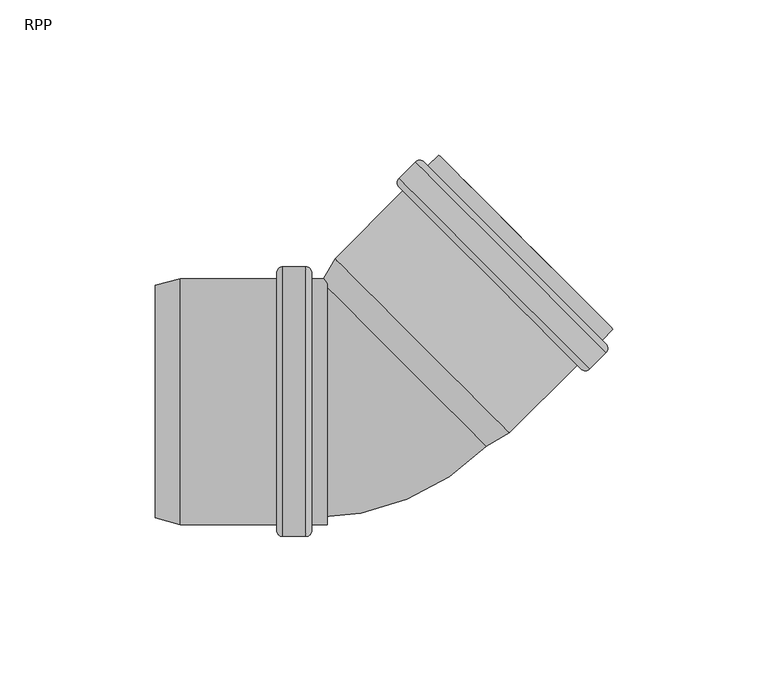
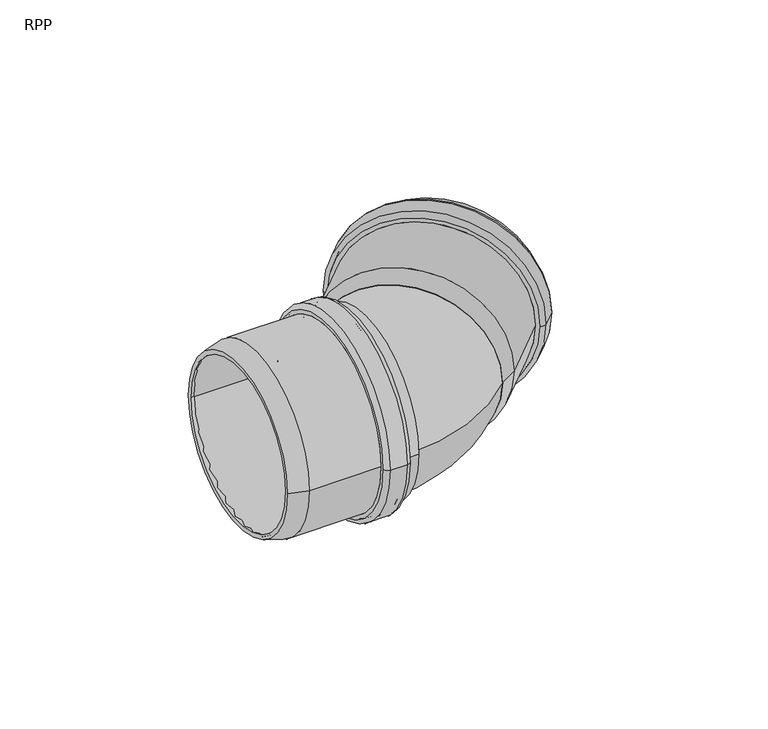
"""IFC4 building model written with IfcOpenShell, lengths in millimetres: pipe fitting geometry, RAUPIANO PLUS Bend : RPP."""

from ifc_helpers import new_model, si_unit, point, frame, origin, place, context, project, spatial, polyline, circle_curve, ellipse_curve, trimmed, source, transform, mapped, element, save
from ifc_brep_helpers import plane_surface, cylinder_surface, revolved_surface, advanced_brep


def rpp_16dab9d7(model_context):
    return source(origin(), model_context, "Body", "AdvancedBrep", [
        advanced_brep(
        [(-27.0898628, -37.8, 0.0), (-27.0898628, 37.8, 0.0), (-59.7292113, 37.8, 0.0), (-59.7292113, -37.8, 0.0), (-26.5898628, -41.6, 0.0), (-26.5898628, 41.6, 0.0), (-27.0898628, 41.1, 0.0), (-27.0898628, -41.1, 0.0), (-19.9898628, -41.6, 0.0), (-19.9898628, 41.6, 0.0), (-19.4898628, -41.1, 0.0), (-19.4898628, 41.1, 0.0), (-12.5898628, -37.8, 0.0), (-12.5898628, 37.8, 0.0), (-19.4898628, 37.8, 0.0), (-19.4898628, -37.8, 0.0), (-17.5898628, -39.7, 0.0), (-17.5898628, 39.7, 0.0), (-12.5898628, 39.7, 0.0), (-12.5898628, -39.7, 0.0), (-19.5898628, -43.5, 0.0), (-19.5898628, 43.5, 0.0), (-17.5898628, 41.5, 0.0), (-17.5898628, -41.5, 0.0), (-26.9898628, -43.5, 0.0), (-26.9898628, 43.5, 0.0), (-28.9898628, -41.5, 0.0), (-28.9898628, 41.5, 0.0), (-59.9793511, -39.7, 0.0), (-59.9793511, 39.7, 0.0), (-28.9898628, 39.7, 0.0), (-28.9898628, -39.7, 0.0), (-68.1898628, -37.5, 0.0), (-68.1898628, 37.5, 0.0), (-68.1898628, 35.5329753, 0.0), (-68.1898628, -35.5329753, 0.0)],
        [
            (0, 1, circle_curve(frame((-27.0898628, 0.0, 0.0), z_axis=(1.0, 0.0, 0.0), x_axis=(0.0, 1.0, 0.0)), 37.8)),
            (1, 2),
            (2, 3, circle_curve(frame((-59.7292113, 0.0, 0.0), z_axis=(-1.0, 0.0, 0.0), x_axis=(0.0, 1.0, 0.0)), 37.8)),
            (3, 0),
            (4, 5, circle_curve(frame((-26.5898628, 0.0, 0.0), z_axis=(1.0, 0.0, 0.0), x_axis=(0.0, 1.0, 0.0)), 41.6)),
            (5, 6, circle_curve(frame((-26.5898628, 41.1, 0.0), z_axis=(0.0, 0.0, 1.0), x_axis=(0.0, -1.0, 0.0)), 0.5)),
            (6, 7, circle_curve(frame((-27.0898628, 0.0, 0.0), z_axis=(-1.0, 0.0, 0.0), x_axis=(0.0, 1.0, 0.0)), 41.1)),
            (7, 4, circle_curve(frame((-26.5898628, -41.1, 0.0), z_axis=(0.0, 0.0, 1.0), x_axis=(0.0, 1.0, 0.0)), 0.5)),
            (8, 9, circle_curve(frame((-19.9898628, 0.0, 0.0), z_axis=(1.0, 0.0, 0.0), x_axis=(0.0, 1.0, 0.0)), 41.6)),
            (9, 5),
            (4, 8),
            (10, 11, circle_curve(frame((-19.4898628, 0.0, 0.0), z_axis=(1.0, 0.0, 0.0), x_axis=(0.0, 1.0, 0.0)), 41.1)),
            (11, 9, circle_curve(frame((-19.9898628, 41.1, 0.0), z_axis=(0.0, 0.0, 1.0), x_axis=(0.0, -1.0, 0.0)), 0.5)),
            (8, 10, circle_curve(frame((-19.9898628, -41.1, 0.0), z_axis=(0.0, 0.0, 1.0), x_axis=(0.0, 1.0, 0.0)), 0.5)),
            (12, 13, circle_curve(frame((-12.5898628, 0.0, 0.0), z_axis=(1.0, 0.0, 0.0), x_axis=(0.0, 1.0, 0.0)), 37.8)),
            (13, 14),
            (14, 15, circle_curve(frame((-19.4898628, 0.0, 0.0), z_axis=(-1.0, 0.0, 0.0), x_axis=(0.0, 1.0, 0.0)), 37.8)),
            (15, 12),
            (16, 17, circle_curve(frame((-17.5898628, 0.0, 0.0), z_axis=(1.0, 0.0, 0.0), x_axis=(0.0, 1.0, 0.0)), 39.7)),
            (17, 18),
            (18, 19, circle_curve(frame((-12.5898628, 0.0, 0.0), z_axis=(-1.0, 0.0, 0.0), x_axis=(0.0, 1.0, 0.0)), 39.7)),
            (19, 16),
            (20, 21, circle_curve(frame((-19.5898628, 0.0, 0.0), z_axis=(1.0, 0.0, 0.0), x_axis=(0.0, 1.0, 0.0)), 43.5)),
            (21, 22, circle_curve(frame((-19.5898628, 41.5, 0.0), z_axis=(0.0, 0.0, -1.0), x_axis=(0.0, -1.0, 0.0)), 2.0)),
            (22, 23, circle_curve(frame((-17.5898628, 0.0, 0.0), z_axis=(-1.0, 0.0, 0.0), x_axis=(0.0, 1.0, 0.0)), 41.5)),
            (23, 20, circle_curve(frame((-19.5898628, -41.5, 0.0), z_axis=(0.0, 0.0, -1.0), x_axis=(0.0, 1.0, 0.0)), 2.0)),
            (24, 25, circle_curve(frame((-26.9898628, 0.0, 0.0), z_axis=(1.0, 0.0, 0.0), x_axis=(0.0, 1.0, 0.0)), 43.5)),
            (25, 21),
            (20, 24),
            (26, 27, circle_curve(frame((-28.9898628, 0.0, 0.0), z_axis=(1.0, 0.0, 0.0), x_axis=(0.0, 1.0, 0.0)), 41.5)),
            (27, 25, circle_curve(frame((-26.9898628, 41.5, 0.0), z_axis=(0.0, 0.0, -1.0), x_axis=(0.0, -1.0, 0.0)), 2.0)),
            (24, 26, circle_curve(frame((-26.9898628, -41.5, 0.0), z_axis=(0.0, 0.0, -1.0), x_axis=(0.0, 1.0, 0.0)), 2.0)),
            (28, 29, circle_curve(frame((-59.9793511, 0.0, 0.0), z_axis=(1.0, 0.0, 0.0), x_axis=(0.0, 1.0, 0.0)), 39.7)),
            (29, 30),
            (30, 31, circle_curve(frame((-28.9898628, 0.0, 0.0), z_axis=(-1.0, 0.0, 0.0), x_axis=(0.0, 1.0, 0.0)), 39.7)),
            (31, 28),
            (32, 33, circle_curve(frame((-68.1898628, 0.0, 0.0), z_axis=(1.0, 0.0, 0.0), x_axis=(0.0, 1.0, 0.0)), 37.5)),
            (33, 29),
            (28, 32),
            (2, 34),
            (34, 35, circle_curve(frame((-68.1898628, 0.0, 0.0), z_axis=(-1.0, 0.0, 0.0), x_axis=(0.0, 1.0, 0.0)), 35.5329753)),
            (35, 3),
            (1, 0, circle_curve(frame((-27.0898628, 0.0, 0.0), z_axis=(1.0, 0.0, 0.0), x_axis=(0.0, -1.0, 0.0)), 37.8)),
            (3, 2, circle_curve(frame((-59.7292113, 0.0, 0.0), z_axis=(-1.0, 0.0, 0.0), x_axis=(0.0, -1.0, 0.0)), 37.8)),
            (6, 7, circle_curve(frame((-27.0898628, 0.0, 0.0), z_axis=(1.0, 0.0, 0.0), x_axis=(0.0, -1.0, 0.0)), 41.1)),
            (5, 4, circle_curve(frame((-26.5898628, 0.0, 0.0), z_axis=(1.0, 0.0, 0.0), x_axis=(0.0, -1.0, 0.0)), 41.6)),
            (9, 8, circle_curve(frame((-19.9898628, 0.0, 0.0), z_axis=(1.0, 0.0, 0.0), x_axis=(0.0, -1.0, 0.0)), 41.6)),
            (11, 10, circle_curve(frame((-19.4898628, 0.0, 0.0), z_axis=(1.0, 0.0, 0.0), x_axis=(0.0, -1.0, 0.0)), 41.1)),
            (14, 15, circle_curve(frame((-19.4898628, 0.0, 0.0), z_axis=(1.0, 0.0, 0.0), x_axis=(0.0, -1.0, 0.0)), 37.8)),
            (13, 12, circle_curve(frame((-12.5898628, 0.0, 0.0), z_axis=(1.0, 0.0, 0.0), x_axis=(0.0, -1.0, 0.0)), 37.8)),
            (18, 19, circle_curve(frame((-12.5898628, 0.0, 0.0), z_axis=(1.0, 0.0, 0.0), x_axis=(0.0, -1.0, 0.0)), 39.7)),
            (17, 16, circle_curve(frame((-17.5898628, 0.0, 0.0), z_axis=(1.0, 0.0, 0.0), x_axis=(0.0, -1.0, 0.0)), 39.7)),
            (22, 23, circle_curve(frame((-17.5898628, 0.0, 0.0), z_axis=(1.0, 0.0, 0.0), x_axis=(0.0, -1.0, 0.0)), 41.5)),
            (21, 20, circle_curve(frame((-19.5898628, 0.0, 0.0), z_axis=(1.0, 0.0, 0.0), x_axis=(0.0, -1.0, 0.0)), 43.5)),
            (25, 24, circle_curve(frame((-26.9898628, 0.0, 0.0), z_axis=(1.0, 0.0, 0.0), x_axis=(0.0, -1.0, 0.0)), 43.5)),
            (27, 26, circle_curve(frame((-28.9898628, 0.0, 0.0), z_axis=(1.0, 0.0, 0.0), x_axis=(0.0, -1.0, 0.0)), 41.5)),
            (30, 31, circle_curve(frame((-28.9898628, 0.0, 0.0), z_axis=(1.0, 0.0, 0.0), x_axis=(0.0, -1.0, 0.0)), 39.7)),
            (29, 28, circle_curve(frame((-59.9793511, 0.0, 0.0), z_axis=(1.0, 0.0, 0.0), x_axis=(0.0, -1.0, 0.0)), 39.7)),
            (33, 32, circle_curve(frame((-68.1898628, 0.0, 0.0), z_axis=(1.0, 0.0, 0.0), x_axis=(0.0, -1.0, 0.0)), 37.5)),
            (34, 35, circle_curve(frame((-68.1898628, 0.0, 0.0), z_axis=(1.0, 0.0, 0.0), x_axis=(0.0, -1.0, 0.0)), 35.5329753)),
        ],
        [
            revolved_surface(polyline([(-59.7292113, 37.8, 0.0), (-27.0898628, 37.8, 0.0)]), (-68.1898628, 0.0, 0.0), (-1.0, 0.0, 0.0)),
            revolved_surface(trimmed(ellipse_curve(frame((-26.5898628, 41.1, 0.0), z_axis=(0.0, 0.0, -1.0), x_axis=(0.0, -1.0, 0.0)), 0.5, 0.5), [point((-27.0898628, 41.1, 0.0))], [point((-26.5898628, 41.6, 0.0))], True, "CARTESIAN"), (-68.1898628, 0.0, 0.0), (-1.0, 0.0, 0.0)),
            revolved_surface(polyline([(-26.5898628, 41.6, 0.0), (-19.989862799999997, 41.6, 0.0)]), (-68.1898628, 0.0, 0.0), (-1.0, 0.0, 0.0)),
            revolved_surface(trimmed(ellipse_curve(frame((-19.9898628, 41.1, 0.0), z_axis=(0.0, 0.0, -1.0), x_axis=(0.0, -1.0, 0.0)), 0.5, 0.5), [point((-19.9898628, 41.6, 0.0))], [point((-19.4898628, 41.1, 0.0))], True, "CARTESIAN"), (-68.1898628, 0.0, 0.0), (-1.0, 0.0, 0.0)),
            revolved_surface(polyline([(-19.489862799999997, 37.8, 0.0), (-12.589862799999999, 37.8, 0.0)]), (-68.1898628, 0.0, 0.0), (-1.0, 0.0, 0.0)),
            cylinder_surface(frame((-68.1898628, 0.0, 0.0), z_axis=(-1.0, 0.0, 0.0), x_axis=(0.0, 1.0, 0.0)), 39.7),
            revolved_surface(trimmed(ellipse_curve(frame((-19.5898628, 41.5, 0.0), z_axis=(0.0, 0.0, 1.0), x_axis=(0.0, -1.0, 0.0)), 2.0, 2.0), [point((-17.5898628, 41.5, 0.0))], [point((-19.5898628, 43.5, 0.0))], True, "CARTESIAN"), (-68.1898628, 0.0, 0.0), (-1.0, 0.0, 0.0)),
            cylinder_surface(frame((-68.1898628, 0.0, 0.0), z_axis=(-1.0, 0.0, 0.0), x_axis=(0.0, 1.0, 0.0)), 43.5),
            revolved_surface(trimmed(ellipse_curve(frame((-26.9898628, 41.5, 0.0), z_axis=(0.0, 0.0, 1.0), x_axis=(0.0, -1.0, 0.0)), 2.0, 2.0), [point((-26.9898628, 43.5, 0.0))], [point((-28.9898628, 41.5, 0.0))], True, "CARTESIAN"), (-68.1898628, 0.0, 0.0), (-1.0, 0.0, 0.0)),
            revolved_surface(polyline([(-59.9793511, 39.7, 0.0), (-68.1898628, 37.5, 0.0)]), (-68.1898628, 0.0, 0.0), (-1.0, 0.0, 0.0)),
            revolved_surface(polyline([(-68.1898628, 35.5329753, 0.0), (-59.7292113, 37.8, 0.0)]), (-68.1898628, 0.0, 0.0), (-1.0, 0.0, 0.0)),
            revolved_surface(polyline([(-59.7292113, -37.8, 0.0), (-27.0898628, -37.8, 0.0)]), (-68.1898628, 0.0, 0.0), (-1.0, 0.0, 0.0)),
            plane_surface(frame((-27.0898628, 0.0, 0.0), z_axis=(1.0, 0.0, 0.0), x_axis=(0.0, -1.0, 0.0))),
            revolved_surface(trimmed(ellipse_curve(frame((-26.5898628, -41.1, 0.0), z_axis=(0.0, 0.0, 1.0), x_axis=(0.0, 1.0, 0.0)), 0.5, 0.5), [point((-27.0898628, -41.1, 0.0))], [point((-26.5898628, -41.6, 0.0))], True, "CARTESIAN"), (-68.1898628, 0.0, 0.0), (-1.0, 0.0, 0.0)),
            revolved_surface(polyline([(-26.5898628, -41.6, 0.0), (-19.989862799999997, -41.6, 0.0)]), (-68.1898628, 0.0, 0.0), (-1.0, 0.0, 0.0)),
            revolved_surface(trimmed(ellipse_curve(frame((-19.9898628, -41.1, 0.0), z_axis=(0.0, 0.0, 1.0), x_axis=(0.0, 1.0, 0.0)), 0.5, 0.5), [point((-19.9898628, -41.6, 0.0))], [point((-19.4898628, -41.1, 0.0))], True, "CARTESIAN"), (-68.1898628, 0.0, 0.0), (-1.0, 0.0, 0.0)),
            plane_surface(frame((-19.4898628, 0.0, 0.0), z_axis=(-1.0, 0.0, 0.0), x_axis=(0.0, -1.0, 0.0))),
            revolved_surface(polyline([(-19.489862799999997, -37.8, 0.0), (-12.589862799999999, -37.8, 0.0)]), (-68.1898628, 0.0, 0.0), (-1.0, 0.0, 0.0)),
            plane_surface(frame((-12.5898628, 0.0, 0.0), z_axis=(1.0, 0.0, 0.0), x_axis=(0.0, -1.0, 0.0))),
            cylinder_surface(frame((-68.1898628, 0.0, 0.0), z_axis=(-1.0, 0.0, 0.0), x_axis=(0.0, -1.0, 0.0)), 39.7),
            plane_surface(frame((-17.5898628, 0.0, 0.0), z_axis=(1.0, 0.0, 0.0), x_axis=(0.0, -1.0, 0.0))),
            revolved_surface(trimmed(ellipse_curve(frame((-19.5898628, -41.5, 0.0), z_axis=(0.0, 0.0, -1.0), x_axis=(0.0, 1.0, 0.0)), 2.0, 2.0), [point((-17.5898628, -41.5, 0.0))], [point((-19.5898628, -43.5, 0.0))], True, "CARTESIAN"), (-68.1898628, 0.0, 0.0), (-1.0, 0.0, 0.0)),
            cylinder_surface(frame((-68.1898628, 0.0, 0.0), z_axis=(-1.0, 0.0, 0.0), x_axis=(0.0, -1.0, 0.0)), 43.5),
            revolved_surface(trimmed(ellipse_curve(frame((-26.9898628, -41.5, 0.0), z_axis=(0.0, 0.0, -1.0), x_axis=(0.0, 1.0, 0.0)), 2.0, 2.0), [point((-26.9898628, -43.5, 0.0))], [point((-28.9898628, -41.5, 0.0))], True, "CARTESIAN"), (-68.1898628, 0.0, 0.0), (-1.0, 0.0, 0.0)),
            plane_surface(frame((-28.9898628, 0.0, 0.0), z_axis=(-1.0, 0.0, 0.0), x_axis=(0.0, -1.0, 0.0))),
            revolved_surface(polyline([(-59.9793511, -39.7, 0.0), (-68.1898628, -37.5, 0.0)]), (-68.1898628, 0.0, 0.0), (-1.0, 0.0, 0.0)),
            plane_surface(frame((-68.1898628, 0.0, 0.0), z_axis=(-1.0, 0.0, 0.0), x_axis=(0.0, -1.0, 0.0))),
            revolved_surface(polyline([(-68.1898628, -35.5329753, 0.0), (-59.7292113, -37.8, 0.0)]), (-68.1898628, 0.0, 0.0), (-1.0, 0.0, 0.0)),
        ],
        [
            (0, [[1, 2, 3, 4]]),
            (1, [[5, 6, 7, 8]]),
            (2, [[9, 10, -5, 11]]),
            (3, [[12, 13, -9, 14]]),
            (4, [[15, 16, 17, 18]]),
            (5, [[19, 20, 21, 22]]),
            (6, [[23, 24, 25, 26]]),
            (7, [[27, 28, -23, 29]]),
            (8, [[30, 31, -27, 32]]),
            (5, [[33, 34, 35, 36]]),
            (9, [[37, 38, -33, 39]]),
            (10, [[-3, 40, 41, 42]]),
            (11, [[43, -4, 44, -2]]),
            (12, [[45, -7], [-43, -1]]),
            (13, [[46, -8, -45, -6]]),
            (14, [[47, -11, -46, -10]]),
            (15, [[48, -14, -47, -13]]),
            (16, [[-48, -12], [49, -17]]),
            (17, [[50, -18, -49, -16]]),
            (18, [[51, -21], [-50, -15]]),
            (19, [[52, -22, -51, -20]]),
            (20, [[53, -25], [-52, -19]]),
            (21, [[54, -26, -53, -24]]),
            (22, [[55, -29, -54, -28]]),
            (23, [[56, -32, -55, -31]]),
            (24, [[-56, -30], [57, -35]]),
            (19, [[58, -36, -57, -34]]),
            (25, [[59, -39, -58, -38]]),
            (26, [[-59, -37], [60, -41]]),
            (27, [[-44, -42, -60, -40]]),
        ],
    ),
        advanced_brep(
        [(37.2806763, -12.9705392, 0.0), (-12.9705392, 37.2806763, 0.0), (-8.5909837, 44.866289, 0.0), (44.866289, -8.5909837, 0.0), (46.0329163, -10.1113621, 0.0), (-10.1113621, 46.0329163, 0.0), (-14.3614357, 38.6715729, 0.0), (38.6715729, -14.3614357, 0.0), (67.9457936, 11.8015152, 0.0), (11.8015152, 67.9457936, 0.0), (77.2796031, 15.7613132, 0.0), (15.7613132, 77.2796031, 0.0), (10.528723, 72.0470129, 0.0), (72.0470129, 10.528723, 0.0), (79.5423448, 23.3980664, 0.0), (23.3980664, 79.5423448, 0.0), (19.8625325, 76.0068109, 0.0), (76.0068109, 19.8625325, 0.0), (73.3198052, 19.8625325, 0.0), (19.8625325, 73.3198052, 0.0), (24.7415693, 78.1988419, 0.0), (78.1988419, 24.7415693, 0.0), (70.9863528, 12.1550686, 0.0), (12.1550686, 70.9863528, 0.0), (16.8219733, 75.6532575, 0.0), (75.6532575, 16.8219733, 0.0), (14.488521, 67.9457936, 0.0), (67.9457936, 14.488521, 0.0), (10.528723, 69.2185858, 0.0), (69.2185858, 10.528723, 0.0), (77.2796031, 18.5897403, 0.0), (18.5897403, 77.2796031, 0.0), (17.5290801, 75.6532575, 0.0), (75.6532575, 17.5290801, 0.0), (70.279246, 12.1550686, 0.0), (12.1550686, 70.279246, 0.0)],
        [
            (0, 1, circle_curve(frame((12.1550686, 12.1550686, 0.0), z_axis=(-0.7071067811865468, -0.7071067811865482, 0.0), x_axis=(-0.7071067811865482, 0.7071067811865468, 0.0)), 35.5329753)),
            (1, 2),
            (2, 3, circle_curve(frame((18.1376526, 18.1376526, 0.0), z_axis=(0.7071067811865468, 0.7071067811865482, 0.0), x_axis=(-0.7071067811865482, 0.7071067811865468, 0.0)), 37.8)),
            (3, 0),
            (4, 5, circle_curve(frame((17.9607771, 17.9607771, 0.0), z_axis=(-0.7071067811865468, -0.7071067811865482, 0.0), x_axis=(-0.7071067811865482, 0.7071067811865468, 0.0)), 39.7)),
            (5, 6),
            (6, 7, circle_curve(frame((12.1550686, 12.1550686, 0.0), z_axis=(0.7071067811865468, 0.7071067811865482, 0.0), x_axis=(-0.7071067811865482, 0.7071067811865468, 0.0)), 37.5)),
            (7, 4),
            (8, 9, circle_curve(frame((39.8736544, 39.8736544, 0.0), z_axis=(-0.7071067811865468, -0.7071067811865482, 0.0), x_axis=(-0.7071067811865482, 0.7071067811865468, 0.0)), 39.7)),
            (9, 5),
            (4, 8),
            (10, 11, circle_curve(frame((46.5204581, 46.5204581, 0.0), z_axis=(-0.7071067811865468, -0.7071067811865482, 0.0), x_axis=(-0.7071067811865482, 0.7071067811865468, 0.0)), 43.5)),
            (11, 12),
            (12, 13, circle_curve(frame((41.287868, 41.287868, 0.0), z_axis=(0.7071067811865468, 0.7071067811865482, 0.0), x_axis=(-0.7071067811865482, 0.7071067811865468, 0.0)), 43.5)),
            (13, 10),
            (14, 15, circle_curve(frame((51.4702056, 51.4702056, 0.0), z_axis=(-0.7071067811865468, -0.7071067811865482, 0.0), x_axis=(-0.7071067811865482, 0.7071067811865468, 0.0)), 39.7)),
            (15, 16),
            (16, 17, circle_curve(frame((47.9346717, 47.9346717, 0.0), z_axis=(0.7071067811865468, 0.7071067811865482, 0.0), x_axis=(-0.7071067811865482, 0.7071067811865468, 0.0)), 39.7)),
            (17, 14),
            (18, 19, circle_curve(frame((46.5911688, 46.5911688, 0.0), z_axis=(-0.7071067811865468, -0.7071067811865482, 0.0), x_axis=(-0.7071067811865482, 0.7071067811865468, 0.0)), 37.8)),
            (19, 20),
            (20, 21, circle_curve(frame((51.4702056, 51.4702056, 0.0), z_axis=(0.7071067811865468, 0.7071067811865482, 0.0), x_axis=(-0.7071067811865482, 0.7071067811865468, 0.0)), 37.8)),
            (21, 18),
            (22, 23, circle_curve(frame((41.5707107, 41.5707107, 0.0), z_axis=(-0.7071067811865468, -0.7071067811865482, 0.0), x_axis=(-0.7071067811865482, 0.7071067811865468, 0.0)), 41.6)),
            (23, 24),
            (24, 25, circle_curve(frame((46.2376154, 46.2376154, 0.0), z_axis=(0.7071067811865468, 0.7071067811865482, 0.0), x_axis=(-0.7071067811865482, 0.7071067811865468, 0.0)), 41.6)),
            (25, 22),
            (2, 26),
            (26, 27, circle_curve(frame((41.2171573, 41.2171573, 0.0), z_axis=(0.7071067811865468, 0.7071067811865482, 0.0), x_axis=(-0.7071067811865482, 0.7071067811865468, 0.0)), 37.8)),
            (27, 3),
            (1, 0, circle_curve(frame((12.1550686, 12.1550686, 0.0), z_axis=(-0.7071067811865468, -0.7071067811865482, 0.0), x_axis=(0.7071067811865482, -0.7071067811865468, 0.0)), 35.5329753)),
            (3, 2, circle_curve(frame((18.1376526, 18.1376526, 0.0), z_axis=(0.7071067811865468, 0.7071067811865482, 0.0), x_axis=(0.7071067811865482, -0.7071067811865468, 0.0)), 37.8)),
            (6, 7, circle_curve(frame((12.1550686, 12.1550686, 0.0), z_axis=(-0.7071067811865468, -0.7071067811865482, 0.0), x_axis=(0.7071067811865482, -0.7071067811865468, 0.0)), 37.5)),
            (5, 4, circle_curve(frame((17.9607771, 17.9607771, 0.0), z_axis=(-0.7071067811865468, -0.7071067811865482, 0.0), x_axis=(0.7071067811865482, -0.7071067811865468, 0.0)), 39.7)),
            (9, 8, circle_curve(frame((39.8736544, 39.8736544, 0.0), z_axis=(-0.7071067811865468, -0.7071067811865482, 0.0), x_axis=(0.7071067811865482, -0.7071067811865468, 0.0)), 39.7)),
            (28, 29, circle_curve(frame((39.8736544, 39.8736544, 0.0), z_axis=(-0.7071067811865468, -0.7071067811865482, 0.0), x_axis=(0.7071067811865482, -0.7071067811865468, 0.0)), 41.5)),
            (29, 28, circle_curve(frame((39.8736544, 39.8736544, 0.0), z_axis=(-0.7071067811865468, -0.7071067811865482, 0.0), x_axis=(-0.7071067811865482, 0.7071067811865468, 0.0)), 41.5)),
            (11, 10, circle_curve(frame((46.5204581, 46.5204581, 0.0), z_axis=(-0.7071067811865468, -0.7071067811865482, 0.0), x_axis=(0.7071067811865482, -0.7071067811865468, 0.0)), 43.5)),
            (13, 12, circle_curve(frame((41.287868, 41.287868, 0.0), z_axis=(0.7071067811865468, 0.7071067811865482, 0.0), x_axis=(0.7071067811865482, -0.7071067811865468, 0.0)), 43.5)),
            (30, 31, circle_curve(frame((47.9346717, 47.9346717, 0.0), z_axis=(0.7071067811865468, 0.7071067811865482, 0.0), x_axis=(0.7071067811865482, -0.7071067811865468, 0.0)), 41.5)),
            (31, 30, circle_curve(frame((47.9346717, 47.9346717, 0.0), z_axis=(0.7071067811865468, 0.7071067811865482, 0.0), x_axis=(-0.7071067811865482, 0.7071067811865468, 0.0)), 41.5)),
            (16, 17, circle_curve(frame((47.9346717, 47.9346717, 0.0), z_axis=(-0.7071067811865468, -0.7071067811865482, 0.0), x_axis=(0.7071067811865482, -0.7071067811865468, 0.0)), 39.7)),
            (15, 14, circle_curve(frame((51.4702056, 51.4702056, 0.0), z_axis=(-0.7071067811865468, -0.7071067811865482, 0.0), x_axis=(0.7071067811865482, -0.7071067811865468, 0.0)), 39.7)),
            (20, 21, circle_curve(frame((51.4702056, 51.4702056, 0.0), z_axis=(-0.7071067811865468, -0.7071067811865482, 0.0), x_axis=(0.7071067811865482, -0.7071067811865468, 0.0)), 37.8)),
            (19, 18, circle_curve(frame((46.5911688, 46.5911688, 0.0), z_axis=(-0.7071067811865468, -0.7071067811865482, 0.0), x_axis=(0.7071067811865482, -0.7071067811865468, 0.0)), 37.8)),
            (32, 33, circle_curve(frame((46.5911688, 46.5911688, 0.0), z_axis=(-0.7071067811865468, -0.7071067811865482, 0.0), x_axis=(0.7071067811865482, -0.7071067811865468, 0.0)), 41.1)),
            (33, 32, circle_curve(frame((46.5911688, 46.5911688, 0.0), z_axis=(-0.7071067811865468, -0.7071067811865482, 0.0), x_axis=(-0.7071067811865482, 0.7071067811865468, 0.0)), 41.1)),
            (23, 22, circle_curve(frame((41.5707107, 41.5707107, 0.0), z_axis=(-0.7071067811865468, -0.7071067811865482, 0.0), x_axis=(0.7071067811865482, -0.7071067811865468, 0.0)), 41.6)),
            (25, 24, circle_curve(frame((46.2376154, 46.2376154, 0.0), z_axis=(0.7071067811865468, 0.7071067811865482, 0.0), x_axis=(0.7071067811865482, -0.7071067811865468, 0.0)), 41.6)),
            (34, 35, circle_curve(frame((41.2171573, 41.2171573, 0.0), z_axis=(0.7071067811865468, 0.7071067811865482, 0.0), x_axis=(0.7071067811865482, -0.7071067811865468, 0.0)), 41.1)),
            (35, 34, circle_curve(frame((41.2171573, 41.2171573, 0.0), z_axis=(0.7071067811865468, 0.7071067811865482, 0.0), x_axis=(-0.7071067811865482, 0.7071067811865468, 0.0)), 41.1)),
            (26, 27, circle_curve(frame((41.2171573, 41.2171573, 0.0), z_axis=(-0.7071067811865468, -0.7071067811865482, 0.0), x_axis=(0.7071067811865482, -0.7071067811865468, 0.0)), 37.8)),
            (12, 28, circle_curve(frame((11.9429365, 70.6327994, 0.0), z_axis=(0.0, 0.0, 1.0), x_axis=(0.7071067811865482, -0.7071067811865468, 0.0)), 2.0)),
            (29, 13, circle_curve(frame((70.6327994, 11.9429365, 0.0), z_axis=(0.0, 0.0, 1.0), x_axis=(-0.7071067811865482, 0.7071067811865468, 0.0)), 2.0)),
            (31, 11, circle_curve(frame((17.1755267, 75.8653896, 0.0), z_axis=(0.0, 0.0, 1.0), x_axis=(0.7071067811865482, -0.7071067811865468, 0.0)), 2.0)),
            (10, 30, circle_curve(frame((75.8653896, 17.1755267, 0.0), z_axis=(0.0, 0.0, 1.0), x_axis=(-0.7071067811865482, 0.7071067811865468, 0.0)), 2.0)),
            (24, 32, circle_curve(frame((17.1755267, 75.2997041, 0.0), z_axis=(0.0, 0.0, -1.0), x_axis=(0.7071067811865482, -0.7071067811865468, 0.0)), 0.5)),
            (33, 25, circle_curve(frame((75.2997041, 17.1755267, 0.0), z_axis=(0.0, 0.0, -1.0), x_axis=(-0.7071067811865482, 0.7071067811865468, 0.0)), 0.5)),
            (35, 23, circle_curve(frame((12.508622, 70.6327994, 0.0), z_axis=(0.0, 0.0, -1.0), x_axis=(0.7071067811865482, -0.7071067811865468, 0.0)), 0.5)),
            (22, 34, circle_curve(frame((70.6327994, 12.508622, 0.0), z_axis=(0.0, 0.0, -1.0), x_axis=(-0.7071067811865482, 0.7071067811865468, 0.0)), 0.5)),
        ],
        [
            revolved_surface(polyline([(-8.5909837, 44.866289, 0.0), (-12.9705392, 37.2806763, 0.0)]), (12.1550686, 12.1550686, 0.0), (0.7071067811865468, 0.7071067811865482, 0.0)),
            revolved_surface(polyline([(-14.3614357, 38.6715729, 0.0), (-10.1113621, 46.0329163, 0.0)]), (12.1550686, 12.1550686, 0.0), (0.7071067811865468, 0.7071067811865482, 0.0)),
            cylinder_surface(frame((12.1550686, 12.1550686, 0.0), z_axis=(0.7071067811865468, 0.7071067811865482, 0.0), x_axis=(-0.7071067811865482, 0.7071067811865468, 0.0)), 39.7),
            cylinder_surface(frame((12.1550686, 12.1550686, 0.0), z_axis=(0.7071067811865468, 0.7071067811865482, 0.0), x_axis=(-0.7071067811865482, 0.7071067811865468, 0.0)), 43.5),
            revolved_surface(polyline([(24.741569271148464, 78.19884192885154, 0.0), (19.86253247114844, 73.3198051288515, 0.0)]), (12.1550686, 12.1550686, 0.0), (0.7071067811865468, 0.7071067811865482, 0.0)),
            revolved_surface(polyline([(16.821973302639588, 75.65325749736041, 0.0), (12.155068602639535, 70.98635279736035, 0.0)]), (12.1550686, 12.1550686, 0.0), (0.7071067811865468, 0.7071067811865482, 0.0)),
            revolved_surface(polyline([(14.488520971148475, 67.94579362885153, 0.0), (-8.59098372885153, 44.866288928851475, 0.0)]), (12.1550686, 12.1550686, 0.0), (0.7071067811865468, 0.7071067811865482, 0.0)),
            revolved_surface(polyline([(44.866289, -8.5909837, 0.0), (37.2806763, -12.9705392, 0.0)]), (12.1550686, 12.1550686, 0.0), (0.7071067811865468, 0.7071067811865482, 0.0)),
            plane_surface(frame((12.1550686, 12.1550686, 0.0), z_axis=(-0.7071067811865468, -0.7071067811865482, 0.0), x_axis=(0.7071067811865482, -0.7071067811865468, 0.0))),
            revolved_surface(polyline([(38.6715729, -14.3614357, 0.0), (46.0329163, -10.1113621, 0.0)]), (12.1550686, 12.1550686, 0.0), (0.7071067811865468, 0.7071067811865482, 0.0)),
            cylinder_surface(frame((12.1550686, 12.1550686, 0.0), z_axis=(0.7071067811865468, 0.7071067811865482, 0.0), x_axis=(0.7071067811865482, -0.7071067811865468, 0.0)), 39.7),
            plane_surface(frame((39.8736544, 39.8736544, 0.0), z_axis=(-0.7071067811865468, -0.7071067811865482, 0.0), x_axis=(0.7071067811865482, -0.7071067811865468, 0.0))),
            cylinder_surface(frame((12.1550686, 12.1550686, 0.0), z_axis=(0.7071067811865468, 0.7071067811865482, 0.0), x_axis=(0.7071067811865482, -0.7071067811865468, 0.0)), 43.5),
            plane_surface(frame((47.9346717, 47.9346717, 0.0), z_axis=(0.7071067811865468, 0.7071067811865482, 0.0), x_axis=(0.7071067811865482, -0.7071067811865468, 0.0))),
            plane_surface(frame((51.4702056, 51.4702056, 0.0), z_axis=(0.7071067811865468, 0.7071067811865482, 0.0), x_axis=(0.7071067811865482, -0.7071067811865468, 0.0))),
            revolved_surface(polyline([(78.19884192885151, 24.741569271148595, 0.0), (73.31980512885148, 19.862532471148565, 0.0)]), (12.1550686, 12.1550686, 0.0), (0.7071067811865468, 0.7071067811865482, 0.0)),
            plane_surface(frame((46.5911688, 46.5911688, 0.0), z_axis=(-0.7071067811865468, -0.7071067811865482, 0.0), x_axis=(0.7071067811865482, -0.7071067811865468, 0.0))),
            revolved_surface(polyline([(75.65325749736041, 16.82197330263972, 0.0), (70.98635279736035, 12.155068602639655, 0.0)]), (12.1550686, 12.1550686, 0.0), (0.7071067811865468, 0.7071067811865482, 0.0)),
            plane_surface(frame((41.2171573, 41.2171573, 0.0), z_axis=(0.7071067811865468, 0.7071067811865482, 0.0), x_axis=(0.7071067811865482, -0.7071067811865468, 0.0))),
            revolved_surface(polyline([(67.94579362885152, 14.488520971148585, 0.0), (44.86628892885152, -8.590983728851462, 0.0)]), (12.1550686, 12.1550686, 0.0), (0.7071067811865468, 0.7071067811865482, 0.0)),
            revolved_surface(trimmed(ellipse_curve(frame((11.9429365, 70.6327994, 0.0), z_axis=(0.0, 0.0, -1.0), x_axis=(0.7071067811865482, -0.7071067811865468, 0.0)), 2.0, 2.0), [point((10.528723, 69.2185858, 0.0))], [point((10.528723, 72.0470129, 0.0))], True, "CARTESIAN"), (12.1550686, 12.1550686, 0.0), (0.7071067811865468, 0.7071067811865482, 0.0)),
            revolved_surface(trimmed(ellipse_curve(frame((17.1755267, 75.8653896, 0.0), z_axis=(0.0, 0.0, -1.0), x_axis=(0.7071067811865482, -0.7071067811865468, 0.0)), 2.0, 2.0), [point((15.7613132, 77.2796031, 0.0))], [point((18.5897403, 77.2796031, 0.0))], True, "CARTESIAN"), (12.1550686, 12.1550686, 0.0), (0.7071067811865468, 0.7071067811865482, 0.0)),
            revolved_surface(trimmed(ellipse_curve(frame((17.1755267, 75.2997041, 0.0), z_axis=(0.0, 0.0, 1.0), x_axis=(0.7071067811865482, -0.7071067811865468, 0.0)), 0.5, 0.5), [point((17.5290801, 75.6532575, 0.0))], [point((16.8219733, 75.6532575, 0.0))], True, "CARTESIAN"), (12.1550686, 12.1550686, 0.0), (0.7071067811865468, 0.7071067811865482, 0.0)),
            revolved_surface(trimmed(ellipse_curve(frame((12.508622, 70.6327994, 0.0), z_axis=(0.0, 0.0, 1.0), x_axis=(0.7071067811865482, -0.7071067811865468, 0.0)), 0.5, 0.5), [point((12.1550686, 70.9863528, 0.0))], [point((12.1550686, 70.279246, 0.0))], True, "CARTESIAN"), (12.1550686, 12.1550686, 0.0), (0.7071067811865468, 0.7071067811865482, 0.0)),
            revolved_surface(trimmed(ellipse_curve(frame((70.6327994, 11.9429365, 0.0), z_axis=(0.0, 0.0, 1.0), x_axis=(-0.7071067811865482, 0.7071067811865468, 0.0)), 2.0, 2.0), [point((69.2185858, 10.528723, 0.0))], [point((72.0470129, 10.528723, 0.0))], True, "CARTESIAN"), (12.1550686, 12.1550686, 0.0), (0.7071067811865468, 0.7071067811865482, 0.0)),
            revolved_surface(trimmed(ellipse_curve(frame((75.8653896, 17.1755267, 0.0), z_axis=(0.0, 0.0, 1.0), x_axis=(-0.7071067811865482, 0.7071067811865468, 0.0)), 2.0, 2.0), [point((77.2796031, 15.7613132, 0.0))], [point((77.2796031, 18.5897403, 0.0))], True, "CARTESIAN"), (12.1550686, 12.1550686, 0.0), (0.7071067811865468, 0.7071067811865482, 0.0)),
            revolved_surface(trimmed(ellipse_curve(frame((75.2997041, 17.1755267, 0.0), z_axis=(0.0, 0.0, -1.0), x_axis=(-0.7071067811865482, 0.7071067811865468, 0.0)), 0.5, 0.5), [point((75.6532575, 17.5290801, 0.0))], [point((75.6532575, 16.8219733, 0.0))], True, "CARTESIAN"), (12.1550686, 12.1550686, 0.0), (0.7071067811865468, 0.7071067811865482, 0.0)),
            revolved_surface(trimmed(ellipse_curve(frame((70.6327994, 12.508622, 0.0), z_axis=(0.0, 0.0, -1.0), x_axis=(-0.7071067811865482, 0.7071067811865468, 0.0)), 0.5, 0.5), [point((70.9863528, 12.1550686, 0.0))], [point((70.279246, 12.1550686, 0.0))], True, "CARTESIAN"), (12.1550686, 12.1550686, 0.0), (0.7071067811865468, 0.7071067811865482, 0.0)),
        ],
        [
            (0, [[1, 2, 3, 4]]),
            (1, [[5, 6, 7, 8]]),
            (2, [[9, 10, -5, 11]]),
            (3, [[12, 13, 14, 15]]),
            (2, [[16, 17, 18, 19]]),
            (4, [[20, 21, 22, 23]]),
            (5, [[24, 25, 26, 27]]),
            (6, [[-3, 28, 29, 30]]),
            (7, [[31, -4, 32, -2]]),
            (8, [[33, -7], [-31, -1]]),
            (9, [[34, -8, -33, -6]]),
            (10, [[35, -11, -34, -10]]),
            (11, [[36, 37], [-35, -9]]),
            (12, [[38, -15, 39, -13]]),
            (13, [[40, 41], [42, -18]]),
            (10, [[43, -19, -42, -17]]),
            (14, [[-43, -16], [44, -22]]),
            (15, [[45, -23, -44, -21]]),
            (16, [[46, 47], [-45, -20]]),
            (17, [[48, -27, 49, -25]]),
            (18, [[50, 51], [52, -29]]),
            (19, [[-32, -30, -52, -28]]),
            (20, [[-14, 53, -37, 54]]),
            (21, [[-41, 55, -12, 56]]),
            (22, [[-26, 57, -47, 58]]),
            (23, [[-51, 59, -24, 60]]),
            (24, [[-39, -54, -36, -53]]),
            (25, [[-40, -56, -38, -55]]),
            (26, [[-49, -58, -46, -57]]),
            (27, [[-50, -60, -48, -59]]),
        ],
    ),
        advanced_brep(
        [(-17.1898628, 35.6, 0.0), (-17.1898628, -35.6, 0.0), (-68.1898628, -35.6, 0.0), (-68.1898628, 35.6, 0.0), (-64.084607, 37.5, 0.0), (-64.084607, -37.5, 0.0), (-17.1898628, -37.5, 0.0), (-17.1898628, 37.5, 0.0), (-68.1898628, 36.4, 0.0), (-68.1898628, -36.4, 0.0)],
        [
            (0, 1, circle_curve(frame((-17.1898628, 0.0, 0.0), z_axis=(1.0, 0.0, 0.0), x_axis=(0.0, -1.0, 0.0)), 35.6)),
            (1, 2),
            (2, 3, circle_curve(frame((-68.1898628, 0.0, 0.0), z_axis=(-1.0, 0.0, 0.0), x_axis=(0.0, -1.0, 0.0)), 35.6)),
            (3, 0),
            (4, 5, circle_curve(frame((-64.084607, 0.0, 0.0), z_axis=(1.0, 0.0, 0.0), x_axis=(0.0, -1.0, 0.0)), 37.5)),
            (5, 6),
            (6, 7, circle_curve(frame((-17.1898628, 0.0, 0.0), z_axis=(-1.0, 0.0, 0.0), x_axis=(0.0, -1.0, 0.0)), 37.5)),
            (7, 4),
            (8, 9, circle_curve(frame((-68.1898628, 0.0, 0.0), z_axis=(1.0, 0.0, 0.0), x_axis=(0.0, -1.0, 0.0)), 36.4)),
            (9, 5),
            (4, 8),
            (1, 0, circle_curve(frame((-17.1898628, 0.0, 0.0), z_axis=(1.0, 0.0, 0.0), x_axis=(0.0, 1.0, 0.0)), 35.6)),
            (3, 2, circle_curve(frame((-68.1898628, 0.0, 0.0), z_axis=(-1.0, 0.0, 0.0), x_axis=(0.0, 1.0, 0.0)), 35.6)),
            (6, 7, circle_curve(frame((-17.1898628, 0.0, 0.0), z_axis=(1.0, 0.0, 0.0), x_axis=(0.0, 1.0, 0.0)), 37.5)),
            (5, 4, circle_curve(frame((-64.084607, 0.0, 0.0), z_axis=(1.0, 0.0, 0.0), x_axis=(0.0, 1.0, 0.0)), 37.5)),
            (9, 8, circle_curve(frame((-68.1898628, 0.0, 0.0), z_axis=(1.0, 0.0, 0.0), x_axis=(0.0, 1.0, 0.0)), 36.4)),
        ],
        [
            revolved_surface(polyline([(-68.1898628, -35.6, 0.0), (-17.1898628, -35.6, 0.0)]), (-17.1898628, 0.0, 0.0), (-1.0, 0.0, 0.0)),
            cylinder_surface(frame((-17.1898628, 0.0, 0.0), z_axis=(-1.0, 0.0, 0.0), x_axis=(0.0, -1.0, 0.0)), 37.5),
            revolved_surface(polyline([(-64.084607, -37.5, 0.0), (-68.1898628, -36.4, 0.0)]), (-17.1898628, 0.0, 0.0), (-1.0, 0.0, 0.0)),
            revolved_surface(polyline([(-68.1898628, 35.6, 0.0), (-17.1898628, 35.6, 0.0)]), (-17.1898628, 0.0, 0.0), (-1.0, 0.0, 0.0)),
            plane_surface(frame((-17.1898628, 0.0, 0.0), z_axis=(1.0, 0.0, 0.0), x_axis=(0.0, 1.0, 0.0))),
            cylinder_surface(frame((-17.1898628, 0.0, 0.0), z_axis=(-1.0, 0.0, 0.0), x_axis=(0.0, 1.0, 0.0)), 37.5),
            revolved_surface(polyline([(-64.084607, 37.5, 0.0), (-68.1898628, 36.4, 0.0)]), (-17.1898628, 0.0, 0.0), (-1.0, 0.0, 0.0)),
            plane_surface(frame((-68.1898628, 0.0, 0.0), z_axis=(-1.0, 0.0, 0.0), x_axis=(0.0, 1.0, 0.0))),
        ],
        [
            (0, [[1, 2, 3, 4]]),
            (1, [[5, 6, 7, 8]]),
            (2, [[9, 10, -5, 11]]),
            (3, [[12, -4, 13, -2]]),
            (4, [[14, -7], [-12, -1]]),
            (5, [[15, -8, -14, -6]]),
            (6, [[16, -11, -15, -10]]),
            (7, [[-16, -9], [-13, -3]]),
        ],
    ),
        advanced_brep(
        [(-17.1898628, -37.5, 0.0), (-17.1898628, 37.5, 0.0), (-17.1898628, -35.6, 0.0), (-17.1898628, 35.6, 0.0), (38.6715729, -14.3614357, 0.0), (-14.3614357, 38.6715729, 0.0), (37.32807, -13.0179328, 0.0), (-13.0179328, 37.32807, 0.0)],
        [
            (0, 1, circle_curve(frame((-17.1898628, 0.0, 0.0), z_axis=(-1.0, 0.0, 0.0), x_axis=(0.0, 1.0, 0.0)), 37.5)),
            (1, 0, circle_curve(frame((-17.1898628, 0.0, 0.0), z_axis=(-1.0, 0.0, 0.0), x_axis=(0.0, 1.0, 0.0)), 37.5)),
            (2, 3, circle_curve(frame((-17.1898628, 0.0, 0.0), z_axis=(1.0, 0.0, 0.0), x_axis=(0.0, 1.0, 0.0)), 35.6)),
            (3, 2, circle_curve(frame((-17.1898628, 0.0, 0.0), z_axis=(1.0, 0.0, 0.0), x_axis=(0.0, 1.0, 0.0)), 35.6)),
            (4, 5, circle_curve(frame((12.1550686, 12.1550686, 0.0), z_axis=(0.7071067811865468, 0.7071067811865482, 0.0), x_axis=(-0.7071067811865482, 0.7071067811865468, 0.0)), 37.5)),
            (5, 4, circle_curve(frame((12.1550686, 12.1550686, 0.0), z_axis=(0.7071067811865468, 0.7071067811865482, 0.0), x_axis=(-0.7071067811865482, 0.7071067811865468, 0.0)), 37.5)),
            (6, 7, circle_curve(frame((12.1550686, 12.1550686, 0.0), z_axis=(-0.7071067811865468, -0.7071067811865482, 0.0), x_axis=(-0.7071067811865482, 0.7071067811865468, 0.0)), 35.6)),
            (7, 6, circle_curve(frame((12.1550686, 12.1550686, 0.0), z_axis=(-0.7071067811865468, -0.7071067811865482, 0.0), x_axis=(-0.7071067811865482, 0.7071067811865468, 0.0)), 35.6)),
            (7, 3, circle_curve(frame((-17.1898628, 41.5, 0.0), z_axis=(0.0, 0.0, -1.0), x_axis=(0.0, -1.0, 0.0)), 5.9)),
            (2, 6, circle_curve(frame((-17.1898628, 41.5, 0.0), z_axis=(0.0, 0.0, 1.0), x_axis=(0.0, -1.0, 0.0)), 77.1)),
            (5, 1, circle_curve(frame((-17.1898628, 41.5, 0.0), z_axis=(0.0, 0.0, -1.0), x_axis=(0.0, -1.0, 0.0)), 4.0)),
            (0, 4, circle_curve(frame((-17.1898628, 41.5, 0.0), z_axis=(0.0, 0.0, 1.0), x_axis=(0.0, -1.0, 0.0)), 79.0)),
        ],
        [
            plane_surface(frame((-17.1898628, 0.0, 0.0), z_axis=(-1.0, 0.0, 0.0), x_axis=(0.0, 0.0, 1.0))),
            plane_surface(frame((12.1550686, 12.1550686, 0.0), z_axis=(0.7071067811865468, 0.7071067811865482, 0.0), x_axis=(0.0, 0.0, 1.0))),
            revolved_surface(trimmed(ellipse_curve(frame((-17.1898628, 0.0, 0.0), z_axis=(1.0, 0.0, 0.0), x_axis=(0.0, 1.0, 0.0)), 35.6, 35.6), [point((-17.1898628, -35.6, 0.0))], [point((-17.1898628, 35.6, 0.0))], True, "CARTESIAN"), (-17.1898628, 41.5, 0.0), (0.0, 0.0, 1.0)),
            revolved_surface(trimmed(ellipse_curve(frame((-17.1898628, 0.0, 0.0), z_axis=(1.0, 0.0, 0.0), x_axis=(0.0, 1.0, 0.0)), 35.6, 35.6), [point((-17.1898628, 35.6, 0.0))], [point((-17.1898628, -35.6, 0.0))], True, "CARTESIAN"), (-17.1898628, 41.5, 0.0), (0.0, 0.0, 1.0)),
            revolved_surface(trimmed(ellipse_curve(frame((-17.1898628, 0.0, 0.0), z_axis=(-1.0, 0.0, 0.0), x_axis=(0.0, 1.0, 0.0)), 37.5, 37.5), [point((-17.1898628, -37.5, 0.0))], [point((-17.1898628, 37.5, 0.0))], True, "CARTESIAN"), (-17.1898628, 41.5, 0.0), (0.0, 0.0, 1.0)),
            revolved_surface(trimmed(ellipse_curve(frame((-17.1898628, 0.0, 0.0), z_axis=(-1.0, 0.0, 0.0), x_axis=(0.0, 1.0, 0.0)), 37.5, 37.5), [point((-17.1898628, 37.5, 0.0))], [point((-17.1898628, -37.5, 0.0))], True, "CARTESIAN"), (-17.1898628, 41.5, 0.0), (0.0, 0.0, 1.0)),
        ],
        [
            (0, [[1, 2], [3, 4]]),
            (1, [[5, 6], [7, 8]]),
            (2, [[9, -3, 10, -8]]),
            (3, [[-10, -4, -9, -7]]),
            (4, [[11, -1, 12, -6]]),
            (5, [[-12, -2, -11, -5]]),
        ],
    ),
    ])


if __name__ == "__main__":
    model = new_model("IFC4")
    model_context = context("Model", 3, world=origin())
    ifc_project = project(units=[si_unit("LENGTHUNIT", "METRE", prefix="MILLI")], contexts=[model_context])
    site = spatial("IfcSite", under=ifc_project)
    building = spatial("IfcBuilding", under=site)
    placement = place(None, origin())
    rpp_shape = rpp_16dab9d7(model_context)
    element("IfcPipeFitting", 1, ObjectType="RAUPIANO PLUS Bend : RPP", at=placement, inside=building, context=model_context, shape_type="MappedRepresentation", body=[
        mapped(rpp_shape, transform((0.0, 0.0, 0.0), x_axis=(1.0, 0.0, 0.0), y_axis=(0.0, 1.0, 0.0), z_axis=(0.0, 0.0, 1.0))),
    ])
    save(model, "model.ifc")
